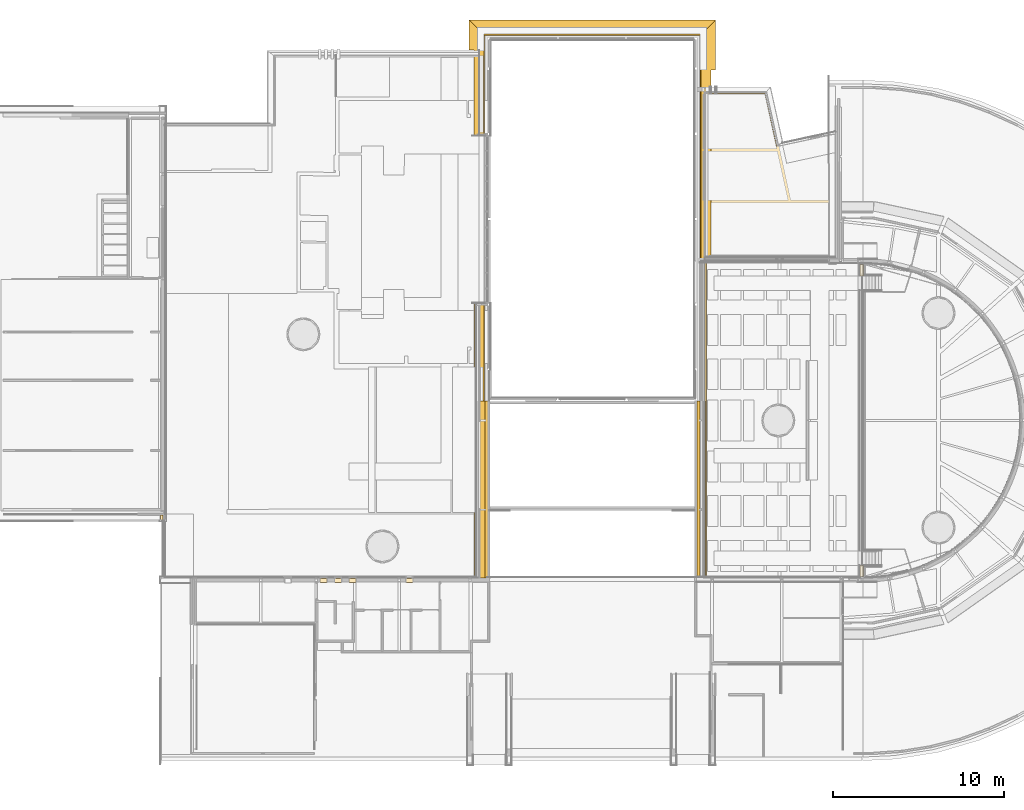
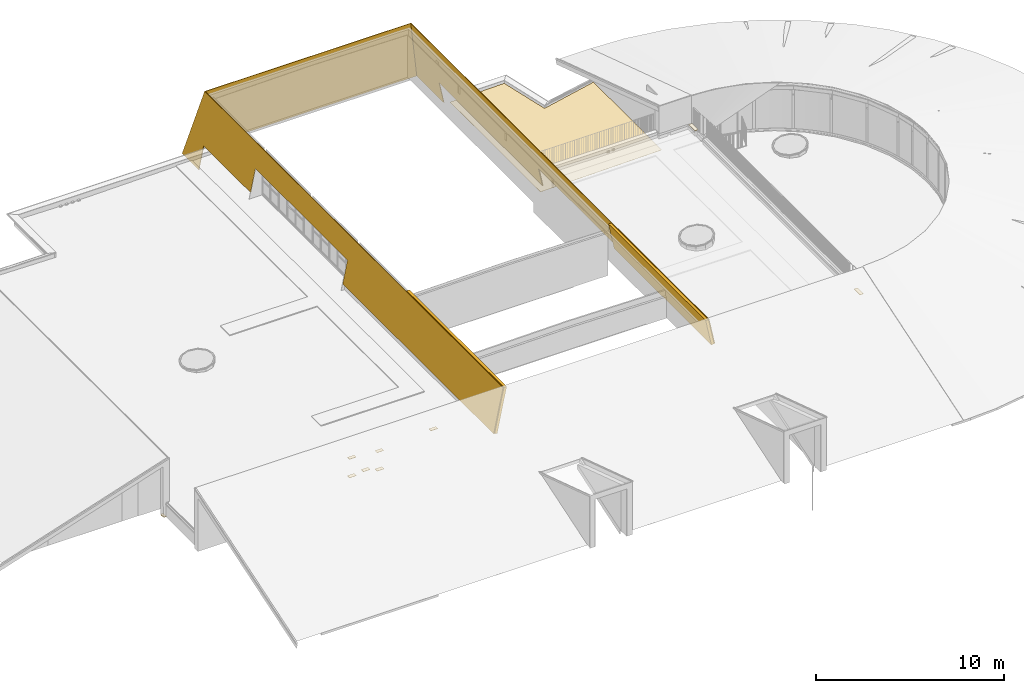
# One storey, part 61 of 66: 15 coverings.
"""IFC2X3 building model written with IfcOpenShell, lengths in millimetres."""

from ifc_helpers import new_model, entity, si_unit, converted_unit, derived_unit, direction, frame, frame_2d, origin, origin_2d_with_axis, place, context, subcontext, project, spatial, rectangle, extrude, faceted_brep, material, layer, layer_set, layer_usage, type_object, element, save


model = new_model("IFC2X3")

# Units and contexts
model_context = context("Model", 3, precision=0.01, world=origin(), true_north=direction((6.12303176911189e-17, 1.0)))
body_context = subcontext(model_context, "Body", "Model", "MODEL_VIEW")
ifc_project = project(units=[si_unit("LENGTHUNIT", "METRE", prefix="MILLI"), si_unit("AREAUNIT", "SQUARE_METRE"), si_unit("VOLUMEUNIT", "CUBIC_METRE"), converted_unit("PLANEANGLEUNIT", "DEGREE", entity("IfcRatioMeasure", 0.0174532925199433), si_unit("PLANEANGLEUNIT", "RADIAN"), dimensions=[0, 0, 0, 0, 0, 0, 0]), si_unit("MASSUNIT", "GRAM", prefix="KILO"), derived_unit("MASSDENSITYUNIT", [(si_unit("MASSUNIT", "GRAM", prefix="KILO"), 1), (si_unit("LENGTHUNIT", "METRE"), -3)]), derived_unit("MOMENTOFINERTIAUNIT", [(si_unit("LENGTHUNIT", "METRE"), 4)]), si_unit("TIMEUNIT", "SECOND"), si_unit("FREQUENCYUNIT", "HERTZ"), si_unit("THERMODYNAMICTEMPERATUREUNIT", "DEGREE_CELSIUS"), derived_unit("THERMALTRANSMITTANCEUNIT", [(si_unit("MASSUNIT", "GRAM", prefix="KILO"), 1), (si_unit("THERMODYNAMICTEMPERATUREUNIT", "KELVIN"), -1), (si_unit("TIMEUNIT", "SECOND"), -3)]), derived_unit("VOLUMETRICFLOWRATEUNIT", [(si_unit("LENGTHUNIT", "METRE"), 3), (si_unit("TIMEUNIT", "SECOND"), -1)]), si_unit("ELECTRICCURRENTUNIT", "AMPERE"), si_unit("ELECTRICVOLTAGEUNIT", "VOLT"), si_unit("POWERUNIT", "WATT"), si_unit("FORCEUNIT", "NEWTON", prefix="KILO"), si_unit("ILLUMINANCEUNIT", "LUX"), si_unit("LUMINOUSFLUXUNIT", "LUMEN"), si_unit("LUMINOUSINTENSITYUNIT", "CANDELA"), derived_unit("USERDEFINED", [(si_unit("MASSUNIT", "GRAM", prefix="KILO"), -1), (si_unit("LENGTHUNIT", "METRE"), -2), (si_unit("TIMEUNIT", "SECOND"), 3), (si_unit("LUMINOUSFLUXUNIT", "LUMEN"), 1)]), derived_unit("LINEARVELOCITYUNIT", [(si_unit("LENGTHUNIT", "METRE"), 1), (si_unit("TIMEUNIT", "SECOND"), -1)]), si_unit("PRESSUREUNIT", "PASCAL"), derived_unit("USERDEFINED", [(si_unit("LENGTHUNIT", "METRE"), -2), (si_unit("MASSUNIT", "GRAM", prefix="KILO"), 1), (si_unit("TIMEUNIT", "SECOND"), -2)]), derived_unit("LINEARFORCEUNIT", [(si_unit("MASSUNIT", "GRAM", prefix="KILO"), 1), (si_unit("LENGTHUNIT", "METRE"), 1), (si_unit("TIMEUNIT", "SECOND"), -2), (si_unit("LENGTHUNIT", "METRE"), -1)]), derived_unit("PLANARFORCEUNIT", [(si_unit("MASSUNIT", "GRAM", prefix="KILO"), 1), (si_unit("LENGTHUNIT", "METRE"), 1), (si_unit("TIMEUNIT", "SECOND"), -2), (si_unit("LENGTHUNIT", "METRE"), -2)])], contexts=[model_context])

# Site, building, storey
site_placement = place(None, origin())
site = spatial("IfcSite", under=ifc_project, at=site_placement, Name="Default", CompositionType="ELEMENT")
building_placement = place(site_placement, origin())
building = spatial("IfcBuilding", under=site, at=building_placement, Name="-", CompositionType="ELEMENT")
storey_placement = place(building_placement, frame((0.0, 0.0, 3070.0)))
storey = spatial("IfcBuildingStorey", under=building, at=storey_placement, Name="01 eerste verdieping", CompositionType="ELEMENT", Elevation=3070.00000000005)

# Coverings
ifc_material_1 = material(Name="NLRS_h4_aluminium sandwichpaneel horizontaal geprofileerd zwart verticaal")
ifc_layer_1 = layer(ifc_material_1, 1.0)
ifc_material_2 = material(Name="NLRS_j9_lucht_gen")
ifc_layer_2 = layer(ifc_material_2, 33.0)
ifc_material_3 = material(Name="NLRS_h4_aluminium_gen")
ifc_layer_3 = layer(ifc_material_3, 1.0)
ifc_layer_set_1 = layer_set([ifc_layer_1, ifc_layer_2, ifc_layer_3], Name="Basic Roof:NLRS_47_SAB 35/1035 profiel plaat")
ifc_layer_usage_1 = layer_usage(ifc_layer_set_1, "AXIS3", "NEGATIVE", 0.0)
covering_type_1 = type_object("IfcCoveringType", Name="Basic Roof:NLRS_47_SAB 35/1035 profiel plaat", PredefinedType="NOTDEFINED")
covering_1_placement = place(storey_placement, frame((27574.433809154, 10402.124095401, -806.377405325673)))
element("IfcCovering", 1, at=covering_1_placement, inside=storey, type_object=covering_type_1, material=ifc_layer_usage_1, Name="Basic Roof:NLRS_47_SAB 35/1035 profiel plaat", ObjectType="Basic Roof:NLRS_47_SAB 35/1035 profiel plaat", PredefinedType="NOTDEFINED", context=body_context, shape_type="Brep", body=[
    faceted_brep([(912.517634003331, 0.0, 4271.37740532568), (876.787862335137, 0.0, 4271.37740532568), (300.026336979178, 0.0, 1461.61434461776), (334.311470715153, 0.0, 1454.57661737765), (0.0, 32655.7964867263, 0.0), (0.0, 30886.6300607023, 0.0), (300.026336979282, 30886.6300607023, 1461.61434461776), (300.026336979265, 25886.931250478, 1461.61434461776), (597.682297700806, 25886.931250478, 2911.68111652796), (597.682297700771, 16071.8527873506, 2911.68111652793), (300.026336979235, 16071.8527873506, 1461.61434461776), (876.787862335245, 31779.0086243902, 4271.37740532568), (334.311470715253, 30886.6300607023, 1454.57661737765), (35.7297716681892, 30886.6300607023, 0.0), (35.7297716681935, 32620.0667150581, 0.0), (912.517634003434, 31743.278852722, 4271.37740532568), (334.311470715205, 16071.8527873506, 1454.57661737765), (633.41206936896, 16071.8527873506, 2911.68111652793), (633.412069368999, 25886.931250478, 2911.68111652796), (334.311470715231, 25886.931250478, 1454.57661737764)], [[[0, 1, 2, 3]], [[4, 5, 6, 7, 8, 9, 10, 2, 1, 11]], [[12, 13, 14, 15, 0, 3, 16, 17, 18, 19]], [[5, 4, 14, 13]], [[15, 11, 1, 0]], [[5, 13, 12, 6]], [[9, 17, 16, 10]], [[17, 9, 8, 18]], [[18, 8, 7, 19]], [[11, 15, 14, 4]], [[6, 12, 19, 7]], [[3, 2, 10, 16]]]),
])
ifc_layer_usage_2 = layer_usage(ifc_layer_set_1, "AXIS3", "NEGATIVE", 0.0)
covering_type_2 = type_object("IfcCoveringType", Name="Basic Roof:NLRS_47_SAB 35/1035 profiel plaat", PredefinedType="NOTDEFINED")
covering_2_placement = place(storey_placement, frame((41107.3956404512, 10402.124095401, -785.43122640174)))
element("IfcCovering", 2, at=covering_2_placement, inside=storey, type_object=covering_type_2, material=ifc_layer_usage_2, Name="Basic Roof:NLRS_47_SAB 35/1035 profiel plaat", ObjectType="Basic Roof:NLRS_47_SAB 35/1035 profiel plaat", PredefinedType="NOTDEFINED", context=body_context, shape_type="Brep", body=[
    faceted_brep([(35.7297716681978, 0.0, 4250.43122640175), (0.0, 0.0, 4250.43122640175), (344.978424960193, 0.0, 2569.827384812), (379.263558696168, 0.0, 2576.86511205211), (35.7297716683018, 31778.9122764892, 4250.43122640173), (379.263558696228, 18744.5826870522, 2576.86511205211), (392.489935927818, 18744.5826870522, 2512.43122640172), (392.489935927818, 18744.8712671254, 2512.43122640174), (625.369341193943, 18744.8712671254, 1377.93122640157), (625.369341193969, 29738.7334684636, 1377.93122640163), (908.218000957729, 29738.7334684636, 0.0), (908.218000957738, 32651.4005057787, 0.0), (0.0, 31743.182504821, 4250.43122640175), (872.488229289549, 32615.6707341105, 0.0), (872.48822928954, 29738.7334684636, 0.0), (589.63956952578, 29738.7334684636, 1377.93122640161), (589.639569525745, 18744.8712671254, 1377.93122640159), (356.760164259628, 18744.8712671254, 2512.43122640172), (356.760164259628, 18744.5826870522, 2512.43122640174), (344.978424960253, 18744.5826870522, 2569.82738481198)], [[[0, 1, 2, 3]], [[4, 0, 3, 5, 6, 7, 8, 9, 10, 11]], [[1, 12, 13, 14, 15, 16, 17, 18, 19, 2]], [[13, 11, 10, 14]], [[4, 12, 1, 0]], [[12, 4, 11, 13]], [[7, 17, 16, 8]], [[9, 15, 14, 10]], [[15, 9, 8, 16]], [[17, 7, 6, 18]], [[18, 6, 5, 19]], [[19, 5, 3, 2]]]),
])
ifc_layer_4 = layer(ifc_material_1, 1.0)
ifc_layer_5 = layer(ifc_material_2, 30.0)
ifc_layer_6 = layer(ifc_material_3, 5.0)
ifc_material_4 = material(Name="NLRS_n7_isolatie PIR_gen")
ifc_layer_7 = layer(ifc_material_4, 127.0)
ifc_layer_8 = layer(ifc_material_3, 5.0)
ifc_layer_set_2 = layer_set([ifc_layer_4, ifc_layer_5, ifc_layer_6, ifc_layer_7, ifc_layer_8], Name="Basic Roof:NLRS_47_Sandwichpaneel KS Slate & tile support sandwichpaneel 137mm")
ifc_layer_usage_3 = layer_usage(ifc_layer_set_2, "AXIS3", "NEGATIVE", 0.0)
covering_type_3 = type_object("IfcCoveringType", Name="Basic Roof:NLRS_47_Sandwichpaneel KS Slate & tile support sandwichpaneel 137mm", PredefinedType="NOTDEFINED")
covering_3_placement = place(storey_placement, frame((40913.4340228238, 10402.124095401, 1746.19135339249)))
element("IfcCovering", 3, at=covering_3_placement, inside=storey, type_object=covering_type_3, material=ifc_layer_usage_3, Name="Basic Roof:NLRS_47_Sandwichpaneel KS Slate & tile support sandwichpaneel 137mm", ObjectType="Basic Roof:NLRS_47_Sandwichpaneel KS Slate & tile support sandwichpaneel 137mm", PredefinedType="NOTDEFINED", context=body_context, shape_type="Brep", body=[
    faceted_brep([(171.502904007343, 0.0, 1718.80864660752), (0.0, 0.0, 1718.80864660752), (337.757082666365, 0.0, 73.3844415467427), (352.820745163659, 0.0, 0.0), (454.230493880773, 0.0, 20.8164318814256), (517.389387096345, 0.0, 33.7810907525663), (0.0, 10359.1961550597, 1718.80864660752), (171.502904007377, 10359.1961550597, 1718.80864660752), (517.389387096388, 10359.1961550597, 33.781090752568), (460.230493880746, 10359.1961550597, 22.0480550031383), (454.230493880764, 10359.1961550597, 20.8164318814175), (436.452652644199, 10359.1961550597, 17.1671651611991), (352.820745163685, 10359.1961550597, 0.0), (337.757082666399, 10359.1961550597, 73.3844415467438)], [[[0, 1, 2, 3, 4, 5]], [[6, 7, 8, 9, 10, 11, 12, 13]], [[7, 0, 5, 8]], [[1, 6, 13, 12, 3, 2]], [[1, 0, 7, 6]], [[5, 4, 3, 12, 11, 10, 9, 8]]]),
])
ifc_layer_usage_4 = layer_usage(ifc_layer_set_2, "AXIS3", "NEGATIVE", 0.0)
covering_type_4 = type_object("IfcCoveringType", Name="Basic Roof:NLRS_47_Sandwichpaneel KS Slate & tile support sandwichpaneel 137mm", PredefinedType="NOTDEFINED")
covering_4_placement = place(storey_placement, frame((27930.2959353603, 10402.124095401, 609.994407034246)))
element("IfcCovering", 4, at=covering_4_placement, inside=storey, type_object=covering_type_4, material=ifc_layer_usage_4, Name="Basic Roof:NLRS_47_Sandwichpaneel KS Slate & tile support sandwichpaneel 137mm", ObjectType="Basic Roof:NLRS_47_Sandwichpaneel KS Slate & tile support sandwichpaneel 137mm", PredefinedType="NOTDEFINED", context=body_context, shape_type="Brep", body=[
    faceted_brep([(579.114221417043, 10359.1961550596, 2855.00559296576), (750.617125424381, 10359.1961550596, 2855.00559296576), (170.294667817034, 10359.1961550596, 27.8950229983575), (164.568641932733, 10359.1961550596, 0.0), (0.0, 10359.1961550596, 33.7810907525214), (750.617125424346, 0.0, 2855.00559296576), (579.114221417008, 0.0, 2855.00559296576), (0.0, 0.0, 33.7810907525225), (56.1521976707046, 0.0, 22.2546999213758), (164.568641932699, 0.0, 0.0), (170.294667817, 0.0, 27.8950229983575)], [[[0, 1, 2, 3, 4]], [[5, 6, 7, 8, 9, 10]], [[6, 0, 4, 7]], [[1, 5, 10, 9, 3, 2]], [[1, 0, 6, 5]], [[4, 3, 9, 8, 7]]]),
])
ifc_layer_usage_5 = layer_usage(ifc_layer_set_1, "AXIS3", "NEGATIVE", 0.0)
covering_type_5 = type_object("IfcCoveringType", Name="Basic Roof:NLRS_47_SAB 35/1035 profiel plaat", PredefinedType="NOTDEFINED")
covering_5_placement = place(storey_placement, frame((27578.8374920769, 42145.389243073, -785.050886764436)))
element("IfcCovering", 5, at=covering_5_placement, inside=storey, type_object=covering_type_5, material=ifc_layer_usage_5, Name="Basic Roof:NLRS_47_SAB 35/1035 profiel plaat", ObjectType="Basic Roof:NLRS_47_SAB 35/1035 profiel plaat", PredefinedType="NOTDEFINED", context=body_context, shape_type="Brep", body=[
    faceted_brep([(14436.7527856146, 908.139928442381, 0.0), (0.0, 908.139928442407, 0.0), (872.410156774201, 35.7297716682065, 4250.05088676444), (13564.3426288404, 35.7297716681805, 4250.05088676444), (35.7297716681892, 872.410156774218, 0.0), (14401.0230139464, 872.410156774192, 0.0), (13528.6128571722, 0.0, 4250.05088676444), (908.139928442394, 0.0, 4250.05088676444)], [[[0, 1, 2, 3]], [[4, 5, 6, 7]], [[1, 0, 5, 4]], [[2, 7, 6, 3]], [[7, 2, 1, 4]], [[3, 6, 5, 0]]]),
])
ifc_material_5 = material(Name="NLRS_n2_bitumen_dak bedekking")
ifc_layer_9 = layer(ifc_material_5, 6.0)
ifc_layer_set_3 = layer_set([ifc_layer_9], Name="Basic Roof:47.11_2 laagse Bitumen dakbedekking")
ifc_layer_usage_6 = layer_usage(ifc_layer_set_3, "AXIS3", "NEGATIVE", 0.0)
covering_type_6 = type_object("IfcCoveringType", Name="Basic Roof:47.11_2 laagse Bitumen dakbedekking", PredefinedType="NOTDEFINED")
covering_6_placement = place(storey_placement, frame((41563.2062373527, 29124.7067824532, 240.0)))
element("IfcCovering", 6, at=covering_6_placement, inside=storey, type_object=covering_type_6, material=ifc_layer_usage_6, Name="Basic Roof:47.11_2 laagse Bitumen dakbedekking", ObjectType="Basic Roof:47.11_2 laagse Bitumen dakbedekking", PredefinedType="NOTDEFINED", context=body_context, shape_type="Brep", body=[
    faceted_brep([(7461.41415278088, 0.0, 122.182626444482), (200.0, 0.0, 6.0), (0.0, 0.0, 6.0), (0.0, 0.0, 0.0), (200.047996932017, 0.0, 0.0), (7461.41415278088, 0.0, 116.181858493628), (0.0, 9634.36317069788, 6.0), (200.0, 9634.36317069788, 6.0), (3336.69802728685, 9634.36317069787, 56.1871684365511), (3336.69802728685, 9634.36317069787, 50.1864004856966), (200.047996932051, 9634.36317069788, 0.0), (0.0, 9634.36317069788, 0.0), (7461.4141527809, 7275.86974411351, 122.182626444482), (4024.31888265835, 6537.32811461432, 67.1891021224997), (4024.31888265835, 6537.32811461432, 61.1883341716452), (7461.4141527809, 7275.86974411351, 116.181858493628)], [[[0, 1, 2, 3, 4, 5]], [[6, 7, 8, 9, 10, 11]], [[1, 0, 12, 13, 8, 7]], [[2, 1, 7, 6]], [[3, 2, 6, 11]], [[4, 3, 11, 10]], [[5, 4, 10, 9, 14, 15]], [[0, 5, 15, 12]], [[14, 13, 12, 15]], [[13, 14, 9, 8]]]),
])
ifc_material_6 = material(Name="AL_Multiplex RAL 9002")
ifc_layer_10 = layer(ifc_material_6, 18.0)
ifc_layer_set_4 = layer_set([ifc_layer_10], Name="Floor:NLRS_44_Plaat 18 mm RAL 9002")
ifc_layer_usage_7 = layer_usage(ifc_layer_set_4, "AXIS3", "POSITIVE", 0.0)
covering_type_7 = type_object("IfcCoveringType", Name="Floor:NLRS_44_Plaat 18 mm RAL 9002", PredefinedType="FLOORING", material=ifc_layer_set_4)
covering_7_placement = place(storey_placement, origin())
element("IfcCovering", 7, at=covering_7_placement, inside=storey, type_object=covering_type_7, material=ifc_layer_usage_7, Name="Floor:NLRS_44_Plaat 18 mm RAL 9002", ObjectType="Floor:NLRS_44_Plaat 18 mm RAL 9002", PredefinedType="FLOORING", context=body_context, shape_type="SweptSolid", body=[
    extrude(rectangle(XDim=220.0, YDim=414.000000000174, at=frame_2d((1.08002495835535e-12, 0.0), x_axis=(1.0, 0.0))), frame((24080.0, 10247.1240954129, 2426.0), z_axis=(0.0, 0.0, -1.0), x_axis=(0.0, 1.0, 0.0)), (0.0, 0.0, 1.0), 18.0000000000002),
])
ifc_layer_11 = layer(ifc_material_6, 15.0)
ifc_layer_set_5 = layer_set([ifc_layer_11], Name="Floor:NLRS_44_Plaat 15 mm RAL 9002")
ifc_layer_usage_8 = layer_usage(ifc_layer_set_5, "AXIS3", "POSITIVE", 0.0)
covering_type_8 = type_object("IfcCoveringType", Name="Floor:NLRS_44_Plaat 15 mm RAL 9002", PredefinedType="FLOORING", material=ifc_layer_set_5)
covering_8_placement = place(storey_placement, origin())
element("IfcCovering", 8, at=covering_8_placement, inside=storey, type_object=covering_type_8, material=ifc_layer_usage_8, Name="Floor:NLRS_44_Plaat 15 mm RAL 9002", ObjectType="Floor:NLRS_44_Plaat 15 mm RAL 9002", PredefinedType="FLOORING", context=body_context, shape_type="SweptSolid", body=[
    extrude(rectangle(XDim=220.0, YDim=414.000000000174, at=frame_2d((1.08002495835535e-12, 0.0), x_axis=(1.0, 0.0))), frame((20761.6948343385, 10247.1240954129, 2166.0), z_axis=(0.0, 0.0, -1.0), x_axis=(0.0, 1.0, 0.0)), (0.0, 0.0, 1.0), 14.9999999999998),
])
ifc_layer_usage_9 = layer_usage(ifc_layer_set_4, "AXIS3", "POSITIVE", 0.0)
covering_type_9 = type_object("IfcCoveringType", Name="Floor:NLRS_44_Plaat 18 mm RAL 9002", PredefinedType="FLOORING", material=ifc_layer_set_4)
covering_9_placement = place(storey_placement, origin())
element("IfcCovering", 9, at=covering_9_placement, inside=storey, type_object=covering_type_9, material=ifc_layer_usage_9, Name="Floor:NLRS_44_Plaat 18 mm RAL 9002", ObjectType="Floor:NLRS_44_Plaat 18 mm RAL 9002", PredefinedType="FLOORING", context=body_context, shape_type="SweptSolid", body=[
    extrude(rectangle(XDim=220.0, YDim=414.000000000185, at=frame_2d((1.08002495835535e-12, -1.08002495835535e-12), x_axis=(1.0, 0.0))), frame((19061.6948343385, 10247.1240954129, 2326.0), z_axis=(0.0, 0.0, -1.0), x_axis=(0.0, 1.0, 0.0)), (0.0, 0.0, 1.0), 18.0000000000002),
])
ifc_layer_usage_10 = layer_usage(ifc_layer_set_4, "AXIS3", "POSITIVE", 0.0)
covering_type_10 = type_object("IfcCoveringType", Name="Floor:NLRS_44_Plaat 18 mm RAL 9002", PredefinedType="FLOORING", material=ifc_layer_set_4)
covering_10_placement = place(storey_placement, origin())
element("IfcCovering", 10, at=covering_10_placement, inside=storey, type_object=covering_type_10, material=ifc_layer_usage_10, Name="Floor:NLRS_44_Plaat 18 mm RAL 9002", ObjectType="Floor:NLRS_44_Plaat 18 mm RAL 9002", PredefinedType="FLOORING", context=body_context, shape_type="SweptSolid", body=[
    extrude(rectangle(XDim=236.000000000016, YDim=414.000000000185, at=frame_2d((0.0, -1.08002495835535e-12), x_axis=(1.0, 0.0))), frame((19061.6948343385, 10239.1240954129, 1134.0), z_axis=(0.0, 0.0, -1.0), x_axis=(0.0, 1.0, 0.0)), (0.0, 0.0, 1.0), 18.0000000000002),
])
ifc_layer_usage_11 = layer_usage(ifc_layer_set_4, "AXIS3", "POSITIVE", 0.0)
covering_type_11 = type_object("IfcCoveringType", Name="Floor:NLRS_44_Plaat 18 mm RAL 9002", PredefinedType="FLOORING", material=ifc_layer_set_4)
covering_11_placement = place(storey_placement, origin())
element("IfcCovering", 11, at=covering_11_placement, inside=storey, type_object=covering_type_11, material=ifc_layer_usage_11, Name="Floor:NLRS_44_Plaat 18 mm RAL 9002", ObjectType="Floor:NLRS_44_Plaat 18 mm RAL 9002", PredefinedType="FLOORING", context=body_context, shape_type="SweptSolid", body=[
    extrude(rectangle(XDim=236.000000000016, YDim=414.000000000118, at=frame_2d((0.0, -2.1600499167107e-12), x_axis=(1.0, 0.0))), frame((19911.6948343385, 10239.1240954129, 1234.0), z_axis=(0.0, 0.0, -1.0), x_axis=(0.0, 1.0, 0.0)), (0.0, 0.0, 1.0), 18.0000000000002),
])
ifc_layer_usage_12 = layer_usage(ifc_layer_set_4, "AXIS3", "POSITIVE", 0.0)
covering_type_12 = type_object("IfcCoveringType", Name="Floor:NLRS_44_Plaat 18 mm RAL 9002", PredefinedType="FLOORING", material=ifc_layer_set_4)
covering_12_placement = place(storey_placement, origin())
element("IfcCovering", 12, at=covering_12_placement, inside=storey, type_object=covering_type_12, material=ifc_layer_usage_12, Name="Floor:NLRS_44_Plaat 18 mm RAL 9002", ObjectType="Floor:NLRS_44_Plaat 18 mm RAL 9002", PredefinedType="FLOORING", context=body_context, shape_type="SweptSolid", body=[
    extrude(rectangle(XDim=236.000000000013, YDim=414.000000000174, at=frame_2d((1.08713038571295e-12, 0.0), x_axis=(1.0, 0.0))), frame((20761.6948343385, 10239.1240954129, 974.0), z_axis=(0.0, 0.0, -1.0), x_axis=(0.0, 1.0, 0.0)), (0.0, 0.0, 1.0), 18.0000000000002),
])
ifc_material_7 = material(Name="NLRS_i4_hout_multiplex")
ifc_layer_12 = layer(ifc_material_7, 15.0)
ifc_layer_set_6 = layer_set([ifc_layer_12], Name="Floor:NLRS_44_FL_Multiplex 15mm")
ifc_layer_usage_13 = layer_usage(ifc_layer_set_6, "AXIS3", "POSITIVE", 0.0)
covering_type_13 = type_object("IfcCoveringType", Name="Floor:NLRS_44_FL_Multiplex 15mm", PredefinedType="FLOORING", material=ifc_layer_set_6)
covering_13_placement = place(storey_placement, origin())
element("IfcCovering", 13, at=covering_13_placement, inside=storey, type_object=covering_type_13, material=ifc_layer_usage_13, Name="Floor:NLRS_44_FL_Multiplex 15mm", ObjectType="Floor:NLRS_44_FL_Multiplex 15mm", PredefinedType="FLOORING", context=body_context, shape_type="SweptSolid", body=[
    extrude(rectangle(XDim=644.585991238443, YDim=212.000000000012, at=frame_2d((0.0, 4.33431068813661e-12), x_axis=(1.0, 0.0))), frame((50556.1203901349, 10808.7036008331, 1744.0), z_axis=(0.0, 0.0, -1.0), x_axis=(0.0, 1.0, 0.0)), (0.0, 0.0, 1.0), 14.9999999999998),
])
ifc_layer_usage_14 = layer_usage(ifc_layer_set_6, "AXIS3", "POSITIVE", 0.0)
covering_type_14 = type_object("IfcCoveringType", Name="Floor:NLRS_44_FL_Multiplex 15mm", PredefinedType="FLOORING", material=ifc_layer_set_6)
covering_14_placement = place(storey_placement, origin())
element("IfcCovering", 14, at=covering_14_placement, inside=storey, type_object=covering_type_14, material=ifc_layer_usage_14, Name="Floor:NLRS_44_FL_Multiplex 15mm", ObjectType="Floor:NLRS_44_FL_Multiplex 15mm", PredefinedType="FLOORING", context=body_context, shape_type="SweptSolid", body=[
    extrude(rectangle(XDim=664.712256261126, YDim=211.99999999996, at=frame_2d((-2.1600499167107e-12, -4.33431068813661e-12), x_axis=(1.0, 0.0))), frame((50556.1203901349, 28413.3527245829, 1744.0), z_axis=(0.0, 0.0, -1.0), x_axis=(0.0, 1.0, 0.0)), (0.0, 0.0, 1.0), 14.9999999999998),
])
ifc_material_8 = material(Name="NLRS_i4_hout_multiplex zwart")
ifc_layer_13 = layer(ifc_material_8, 10.0)
ifc_layer_set_7 = layer_set([ifc_layer_13], Name="Floor:NLRS_44_Plaat 10 mm zwart")
ifc_layer_usage_15 = layer_usage(ifc_layer_set_7, "AXIS3", "POSITIVE", 0.0)
covering_type_15 = type_object("IfcCoveringType", Name="Floor:NLRS_44_Plaat 10 mm zwart", PredefinedType="FLOORING", material=ifc_layer_set_7)
covering_15_placement = place(storey_placement, origin())
element("IfcCovering", 15, at=covering_15_placement, inside=storey, type_object=covering_type_15, material=ifc_layer_usage_15, Name="Floor:NLRS_44_Plaat 10 mm zwart", ObjectType="Floor:NLRS_44_Plaat 10 mm zwart", PredefinedType="FLOORING", context=body_context, shape_type="SweptSolid", body=[
    extrude(rectangle(XDim=341.307124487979, YDim=150.00000000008, at=origin_2d_with_axis()), frame((9591.0, 13904.4705331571, -350.0), z_axis=(0.0, 0.0, -1.0), x_axis=(0.0, 1.0, 0.0)), (0.0, 0.0, 1.0), 9.99999999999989),
])

save(model, "model.ifc")
